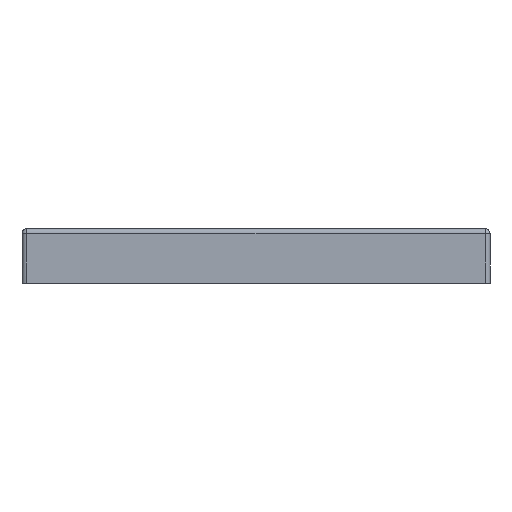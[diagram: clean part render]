
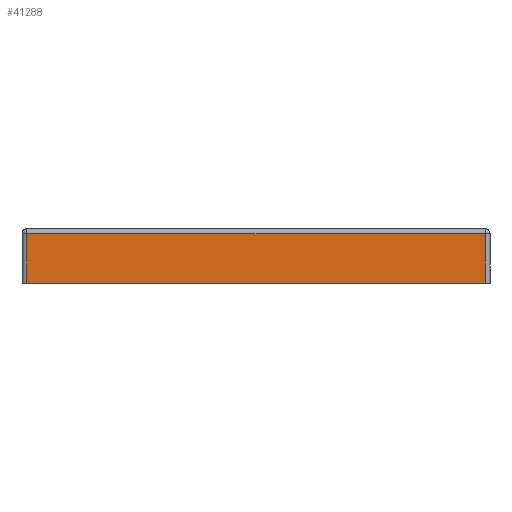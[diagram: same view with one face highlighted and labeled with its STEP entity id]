
A CAD part, front view. The second image highlights one B-rep face of the part: STEP entity #41288.
In plain terms, the highlighted planar face has unit normal (0, -1, -0.018).
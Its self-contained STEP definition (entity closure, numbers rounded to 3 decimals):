
#13435=DIRECTION('',(1.,0.,0.));
#13436=VECTOR('',#13435,143.);
#13437=CARTESIAN_POINT('',(-12.492,-172.706,
0.));
#13438=LINE('',#13437,#13436);
#13439=DIRECTION('',(-1.,0.,0.));
#13440=VECTOR('',#13439,143.);
#13441=CARTESIAN_POINT('',(130.508,-172.436,
-15.474));
#13442=LINE('',#13441,#13440);
#13467=CARTESIAN_POINT('',(130.508,-172.436,
-15.474));
#13476=DIRECTION('',(0.,0.017,-1.));
#13477=VECTOR('',#13476,15.476);
#13478=CARTESIAN_POINT('',(130.508,-172.706,
0.));
#13479=LINE('',#13478,#13477);
#13828=DIRECTION('',(0.,-0.017,1.));
#13829=VECTOR('',#13828,15.476);
#13830=CARTESIAN_POINT('',(-12.492,-172.436,-15.474));
#13831=LINE('',#13830,#13829);
#13839=CARTESIAN_POINT('',(-12.492,-172.436,-15.474));
#18324=VERTEX_POINT('',#13839);
#19150=CARTESIAN_POINT('',(-12.492,-172.706,
0.));
#19151=VERTEX_POINT('',#19150);
#22364=VERTEX_POINT('',#13467);
#22941=CARTESIAN_POINT('',(130.508,-172.706,
0.));
#22942=VERTEX_POINT('',#22941);
#41274=CARTESIAN_POINT('',(1.258,-172.571,
-7.737));
#41275=DIRECTION('',(0.,1.,0.017));
#41276=DIRECTION('',(0.,0.017,-1.));
#41277=AXIS2_PLACEMENT_3D('',#41274,#41275,#41276);
#41278=PLANE('',#41277);
#41280=ORIENTED_EDGE('',*,*,#41279,.T.);
#41282=ORIENTED_EDGE('',*,*,#41281,.T.);
#41283=ORIENTED_EDGE('',*,*,#25624,.T.);
#41285=ORIENTED_EDGE('',*,*,#41284,.T.);
#41286=EDGE_LOOP('',(#41280,#41282,#41283,#41285));
#41287=FACE_OUTER_BOUND('',#41286,.F.);
#41288=ADVANCED_FACE('',(#41287),#41278,.F.);
#25624=EDGE_CURVE('',#22364,#18324,#13442,.T.);
#41279=EDGE_CURVE('',#19151,#22942,#13438,.T.);
#41281=EDGE_CURVE('',#22942,#22364,#13479,.T.);
#41284=EDGE_CURVE('',#18324,#19151,#13831,.T.);
